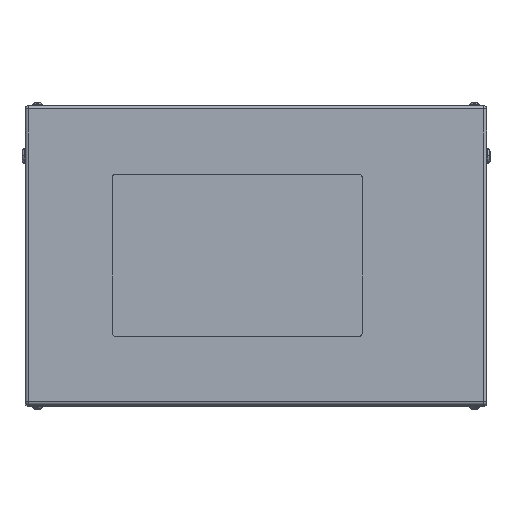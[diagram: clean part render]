
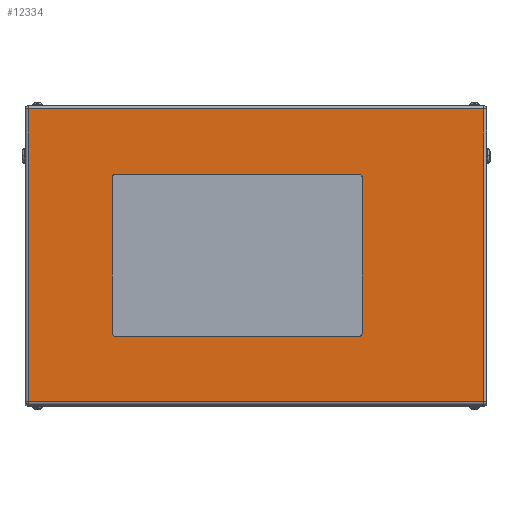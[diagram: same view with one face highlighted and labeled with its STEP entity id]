
A CAD part, top view. The second image highlights one B-rep face of the part: STEP entity #12334.
In plain terms, the highlighted planar face has unit normal (0, 0, 1).
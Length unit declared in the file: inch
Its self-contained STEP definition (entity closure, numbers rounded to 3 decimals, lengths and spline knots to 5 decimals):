
#371 = EDGE_CURVE ( 'NONE', #2536, #19273, #10530, .T. ) ;
#726 = ORIENTED_EDGE ( 'NONE', *, *, #15331, .F. ) ;
#833 = CARTESIAN_POINT ( 'NONE',  ( 18.234, 11.734, 29. ) ) ;
#841 = DIRECTION ( 'NONE',  ( 0., 0., 1. ) ) ;
#914 = CARTESIAN_POINT ( 'NONE',  ( 18.234, -11.734, 29. ) ) ;
#977 = CIRCLE ( 'NONE', #4694, 0.25 ) ;
#1012 = CARTESIAN_POINT ( 'NONE',  ( 18.5, 12., 29. ) ) ;
#1273 = VECTOR ( 'NONE', #15636, 39.37008 ) ;
#1771 = LINE ( 'NONE', #3343, #5990 ) ;
#2007 = EDGE_CURVE ( 'NONE', #19273, #2355, #15954, .T. ) ;
#2202 = FACE_BOUND ( 'NONE', #10270, .T. ) ;
#2355 = VERTEX_POINT ( 'NONE', #11762 ) ;
#2536 = VERTEX_POINT ( 'NONE', #15303 ) ;
#2767 = VERTEX_POINT ( 'NONE', #16649 ) ;
#3338 = ORIENTED_EDGE ( 'NONE', *, *, #17563, .F. ) ;
#3343 = CARTESIAN_POINT ( 'NONE',  ( -18.234, 12., 29. ) ) ;
#3681 = DIRECTION ( 'NONE',  ( 1., 0., 0. ) ) ;
#4099 = DIRECTION ( 'NONE',  ( -1., 0., 0. ) ) ;
#4688 = CARTESIAN_POINT ( 'NONE',  ( -11.25, 6.5, 29. ) ) ;
#4694 = AXIS2_PLACEMENT_3D ( 'NONE', #8857, #12110, #15749 ) ;
#4724 = VECTOR ( 'NONE', #15457, 39.37008 ) ;
#5377 = DIRECTION ( 'NONE',  ( 0., 0., 1. ) ) ;
#5459 = CARTESIAN_POINT ( 'NONE',  ( 8.25, -6.5, 29. ) ) ;
#5585 = CARTESIAN_POINT ( 'NONE',  ( -11.25, 6.5, 29. ) ) ;
#5597 = DIRECTION ( 'NONE',  ( 1., 0., 0. ) ) ;
#5646 = CARTESIAN_POINT ( 'NONE',  ( -11.25, -6.5, 29. ) ) ;
#5787 = LINE ( 'NONE', #9250, #1273 ) ;
#5804 = EDGE_CURVE ( 'NONE', #11092, #18373, #10444, .T. ) ;
#5904 = ORIENTED_EDGE ( 'NONE', *, *, #17582, .T. ) ;
#5990 = VECTOR ( 'NONE', #15851, 39.37008 ) ;
#6308 = DIRECTION ( 'NONE',  ( 1., 0., 0. ) ) ;
#6345 = VECTOR ( 'NONE', #6308, 39.37008 ) ;
#6469 = VECTOR ( 'NONE', #16276, 39.37008 ) ;
#6838 = PLANE ( 'NONE',  #20072 ) ;
#7279 = CARTESIAN_POINT ( 'NONE',  ( -18.234, 11.734, 29. ) ) ;
#7587 = AXIS2_PLACEMENT_3D ( 'NONE', #16815, #5377, #3681 ) ;
#7722 = EDGE_CURVE ( 'NONE', #10681, #18157, #10127, .T. ) ;
#8036 = ORIENTED_EDGE ( 'NONE', *, *, #7722, .F. ) ;
#8171 = VECTOR ( 'NONE', #5597, 39.37008 ) ;
#8494 = EDGE_CURVE ( 'NONE', #10537, #2536, #12849, .T. ) ;
#8544 = VERTEX_POINT ( 'NONE', #7279 ) ;
#8857 = CARTESIAN_POINT ( 'NONE',  ( 8.25, -6.25, 29. ) ) ;
#8862 = CARTESIAN_POINT ( 'NONE',  ( 18.234, 12., 29. ) ) ;
#9250 = CARTESIAN_POINT ( 'NONE',  ( -11.5, 6.25, 29. ) ) ;
#9390 = ORIENTED_EDGE ( 'NONE', *, *, #13616, .T. ) ;
#9503 = EDGE_LOOP ( 'NONE', ( #5904, #9827, #9518, #9390 ) ) ;
#9518 = ORIENTED_EDGE ( 'NONE', *, *, #5804, .T. ) ;
#9827 = ORIENTED_EDGE ( 'NONE', *, *, #17565, .T. ) ;
#9878 = LINE ( 'NONE', #14302, #6469 ) ;
#9928 = ORIENTED_EDGE ( 'NONE', *, *, #8494, .F. ) ;
#10127 = LINE ( 'NONE', #19957, #8171 ) ;
#10270 = EDGE_LOOP ( 'NONE', ( #8036, #726, #3338, #15241, #17219, #9928, #16610, #16551 ) ) ;
#10444 = LINE ( 'NONE', #8862, #4724 ) ;
#10530 = LINE ( 'NONE', #5585, #13243 ) ;
#10537 = VERTEX_POINT ( 'NONE', #12804 ) ;
#10681 = VERTEX_POINT ( 'NONE', #5646 ) ;
#11092 = VERTEX_POINT ( 'NONE', #914 ) ;
#11277 = CIRCLE ( 'NONE', #15630, 0.25 ) ;
#11762 = CARTESIAN_POINT ( 'NONE',  ( -11.5, 6.25, 29. ) ) ;
#11912 = EDGE_CURVE ( 'NONE', #18157, #13410, #977, .T. ) ;
#11966 = LINE ( 'NONE', #12268, #18171 ) ;
#12110 = DIRECTION ( 'NONE',  ( 0., 0., 1. ) ) ;
#12268 = CARTESIAN_POINT ( 'NONE',  ( 8.5, 6.25, 29. ) ) ;
#12334 = ADVANCED_FACE ( 'NONE', ( #2202, #18342 ), #6838, .F. ) ;
#12651 = DIRECTION ( 'NONE',  ( 1., 0., 0. ) ) ;
#12804 = CARTESIAN_POINT ( 'NONE',  ( 8.5, 6.25, 29. ) ) ;
#12849 = CIRCLE ( 'NONE', #15507, 0.25 ) ;
#13198 = CARTESIAN_POINT ( 'NONE',  ( 8.25, 6.25, 29. ) ) ;
#13243 = VECTOR ( 'NONE', #4099, 39.37008 ) ;
#13410 = VERTEX_POINT ( 'NONE', #16563 ) ;
#13616 = EDGE_CURVE ( 'NONE', #18373, #8544, #9878, .T. ) ;
#14078 = LINE ( 'NONE', #15948, #6345 ) ;
#14302 = CARTESIAN_POINT ( 'NONE',  ( 18.5, 11.734, 29. ) ) ;
#14448 = CARTESIAN_POINT ( 'NONE',  ( -11.25, -6.25, 29. ) ) ;
#15241 = ORIENTED_EDGE ( 'NONE', *, *, #2007, .F. ) ;
#15303 = CARTESIAN_POINT ( 'NONE',  ( 8.25, 6.5, 29. ) ) ;
#15331 = EDGE_CURVE ( 'NONE', #2767, #10681, #11277, .T. ) ;
#15457 = DIRECTION ( 'NONE',  ( 0., 1., 0. ) ) ;
#15507 = AXIS2_PLACEMENT_3D ( 'NONE', #13198, #841, #18485 ) ;
#15623 = DIRECTION ( 'NONE',  ( -1., 0., 0. ) ) ;
#15630 = AXIS2_PLACEMENT_3D ( 'NONE', #14448, #16007, #12651 ) ;
#15636 = DIRECTION ( 'NONE',  ( 0., -1., 0. ) ) ;
#15749 = DIRECTION ( 'NONE',  ( 1., 0., 0. ) ) ;
#15851 = DIRECTION ( 'NONE',  ( 0., -1., 0. ) ) ;
#15948 = CARTESIAN_POINT ( 'NONE',  ( 18.234, -11.734, 29. ) ) ;
#15954 = CIRCLE ( 'NONE', #7587, 0.25 ) ;
#16007 = DIRECTION ( 'NONE',  ( 0., 0., 1. ) ) ;
#16276 = DIRECTION ( 'NONE',  ( -1., 0., 0. ) ) ;
#16492 = CARTESIAN_POINT ( 'NONE',  ( -18.234, -11.734, 29. ) ) ;
#16551 = ORIENTED_EDGE ( 'NONE', *, *, #11912, .F. ) ;
#16563 = CARTESIAN_POINT ( 'NONE',  ( 8.5, -6.25, 29. ) ) ;
#16610 = ORIENTED_EDGE ( 'NONE', *, *, #19556, .F. ) ;
#16649 = CARTESIAN_POINT ( 'NONE',  ( -11.5, -6.25, 29. ) ) ;
#16815 = CARTESIAN_POINT ( 'NONE',  ( -11.25, 6.25, 29. ) ) ;
#17097 = DIRECTION ( 'NONE',  ( 0., 1., 0. ) ) ;
#17209 = DIRECTION ( 'NONE',  ( 0., 0., -1. ) ) ;
#17219 = ORIENTED_EDGE ( 'NONE', *, *, #371, .F. ) ;
#17563 = EDGE_CURVE ( 'NONE', #2355, #2767, #5787, .T. ) ;
#17565 = EDGE_CURVE ( 'NONE', #18061, #11092, #14078, .T. ) ;
#17582 = EDGE_CURVE ( 'NONE', #8544, #18061, #1771, .T. ) ;
#18061 = VERTEX_POINT ( 'NONE', #16492 ) ;
#18157 = VERTEX_POINT ( 'NONE', #5459 ) ;
#18171 = VECTOR ( 'NONE', #17097, 39.37008 ) ;
#18342 = FACE_OUTER_BOUND ( 'NONE', #9503, .T. ) ;
#18373 = VERTEX_POINT ( 'NONE', #833 ) ;
#18485 = DIRECTION ( 'NONE',  ( -1., 0., 0. ) ) ;
#19273 = VERTEX_POINT ( 'NONE', #4688 ) ;
#19556 = EDGE_CURVE ( 'NONE', #13410, #10537, #11966, .T. ) ;
#19957 = CARTESIAN_POINT ( 'NONE',  ( -11.25, -6.5, 29. ) ) ;
#20072 = AXIS2_PLACEMENT_3D ( 'NONE', #1012, #17209, #15623 ) ;
